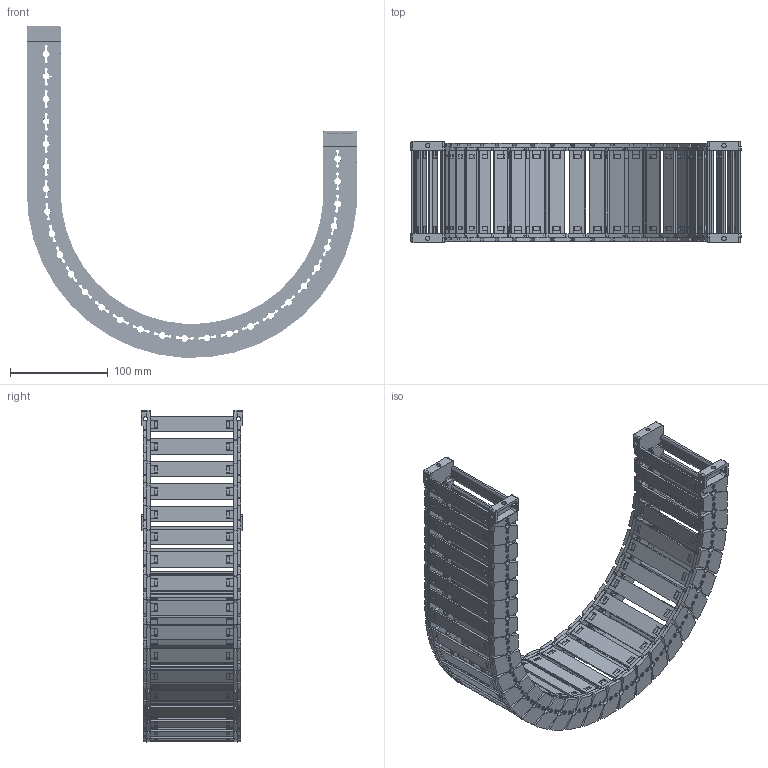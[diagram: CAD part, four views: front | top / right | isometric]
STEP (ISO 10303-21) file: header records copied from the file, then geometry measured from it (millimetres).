
FILE_DESCRIPTION((''),'2;1');
FILE_NAME('JY-28X77-R150_ASM','2025-07-23T11:21:29',('admin'),(''),'CREO PARAMETRIC BY PTC INC, 2021023','CREO PARAMETRIC BY PTC INC, 2021023','');
FILE_SCHEMA(('CONFIG_CONTROL_DESIGN','GEOMETRIC_VALIDATION_PROPERTIES_MIM'));
Length unit declared in the file: millimetre
Products named in the file (12): 28XL-L_1; 25-35XL-YP_1; 28XL-R_1; ASM0001_ASM_1_ASM; 28-LTT-A-L_1; 28-LTT-A-R_1; 28XL-LTT-A_ASM_1_ASM; 28-LTT-B-L_1; 28-LTT-B-R_1; 28XL-LTT-B_ASM_1_ASM; JY-28X77-R150_ASM_1_ASM; JY-28X77-R150_ASM
Assembly tree (43 placements, depth 4):
  JY-28X77-R150_ASM
    JY-28X77-R150_ASM_1_ASM
      ASM0001_ASM_1_ASM  x28
        28XL-L_1
        25-35XL-YP_1
        28XL-R_1
      28XL-LTT-A_ASM_1_ASM
        28-LTT-A-L_1
        25-35XL-YP_1  x2
        28-LTT-A-R_1
      28XL-LTT-B_ASM_1_ASM
        28-LTT-B-L_1
        25-35XL-YP_1  x2
        28-LTT-B-R_1
Bounding box: 337.23 x 103.4 x 338.94 mm (x, y, z)
Volume: 552198.1 mm3; surface area: 396839.3 mm2
Topology: 120 solids, 120 shells, 7034 faces, 22108 edges, 15194 vertices
Faces by surface type: plane 4256, cone 1534, cylinder 1118, bspline 124, extrusion 2
Entity records: 28469 total; most frequent: CARTESIAN_POINT 6408, ORIENTED_EDGE 3500, DIRECTION 3077, PRESENTATION_STYLE_ASSIGNMENT 1775, STYLED_ITEM 1757, CURVE_STYLE 1750, EDGE_CURVE 1750, VERTEX_POINT 1190
